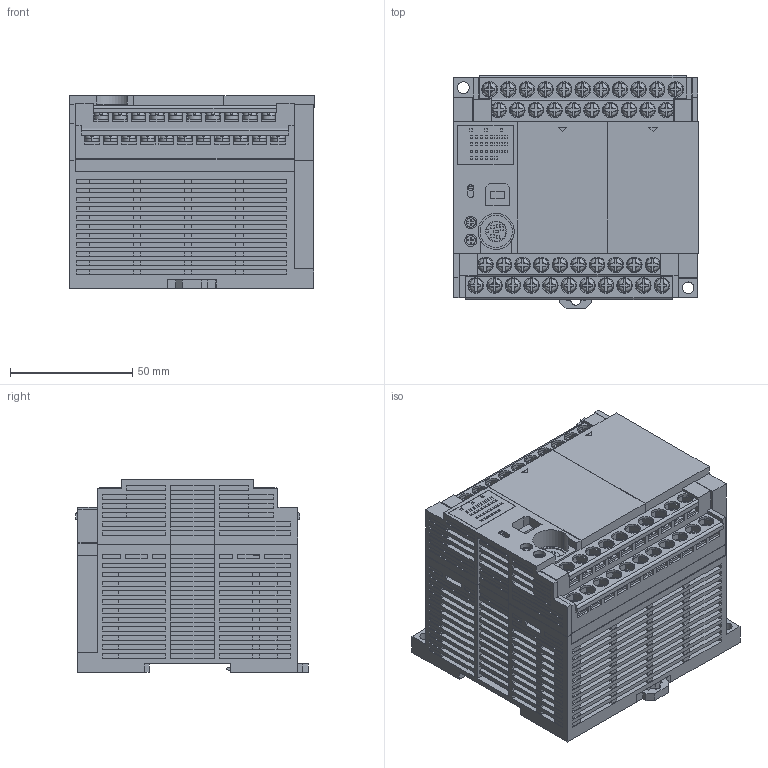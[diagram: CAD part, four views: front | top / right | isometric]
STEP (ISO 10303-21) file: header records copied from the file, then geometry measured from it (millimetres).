
FILE_DESCRIPTION (( 'STEP AP214' ), '1' );
FILE_NAME ('afpx-c30.step', '2009-08-28T01:46:53', ( '' ), ( 'PanasonicElectricWorks' ), '', '', '' );
FILE_SCHEMA (( 'AUTOMOTIVE_DESIGN' ));
Length unit declared in the file: millimetre
Products named in the file (1): afpx-c30
Bounding box: 100.2 x 95.4 x 79 mm (x, y, z)
Volume: 603832.5 mm3; surface area: 100086.6 mm2
Topology: 3 solids, 3 shells, 3137 faces, 8663 edges, 5661 vertices
Faces by surface type: plane 2805, cylinder 248, torus 84
Entity records: 135287 total; most frequent: CARTESIAN_POINT 20434, ORIENTED_EDGE 17326, DIRECTION 15557, EDGE_CURVE 8663, VECTOR 7125, LINE 7125, VERTEX_POINT 5661, AXIS2_PLACEMENT_3D 4216
